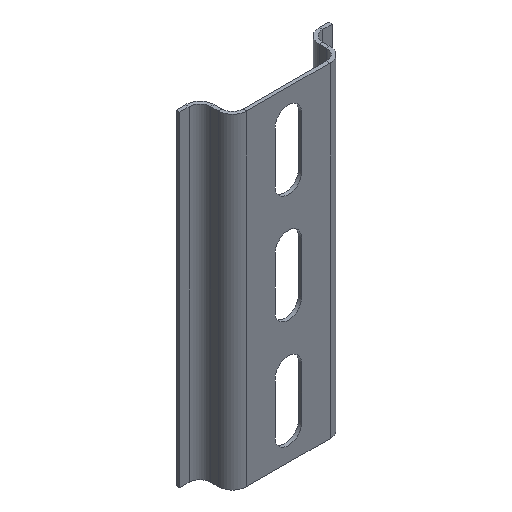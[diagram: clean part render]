
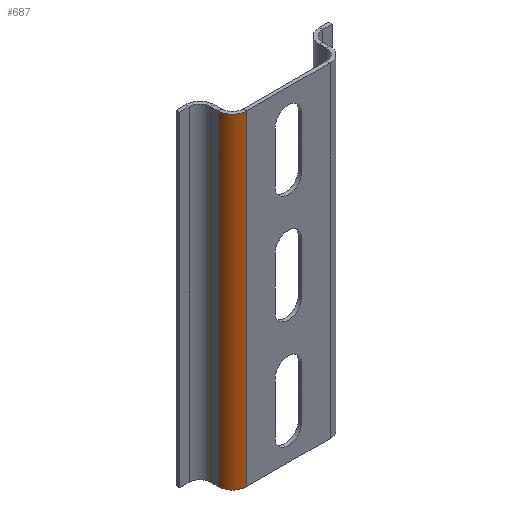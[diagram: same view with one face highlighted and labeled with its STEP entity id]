
A CAD part, isometric view. The second image highlights one B-rep face of the part: STEP entity #687.
In plain terms, the highlighted cylindrical face has radius 3.3 mm (diameter 6.6 mm), a partial arc.
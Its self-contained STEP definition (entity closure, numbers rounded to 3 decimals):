
#8 = VERTEX_POINT ( 'NONE', #617 ) ;
#16 = VERTEX_POINT ( 'NONE', #1416 ) ;
#45 = DIRECTION ( 'NONE',  ( 0., 0., -1. ) ) ;
#51 = DIRECTION ( 'NONE',  ( 0., 0., -1. ) ) ;
#68 = CARTESIAN_POINT ( 'NONE',  ( -9.6, -0.8, 75. ) ) ;
#100 = CYLINDRICAL_SURFACE ( 'NONE', #208, 3.3 ) ;
#132 = ORIENTED_EDGE ( 'NONE', *, *, #554, .F. ) ;
#157 = DIRECTION ( 'NONE',  ( 0., 0., -1. ) ) ;
#160 = AXIS2_PLACEMENT_3D ( 'NONE', #397, #157, #515 ) ;
#162 = EDGE_LOOP ( 'NONE', ( #132, #495, #1239, #1368 ) ) ;
#208 = AXIS2_PLACEMENT_3D ( 'NONE', #1315, #45, #1419 ) ;
#246 = DIRECTION ( 'NONE',  ( 1., 0., 0. ) ) ;
#397 = CARTESIAN_POINT ( 'NONE',  ( -9.6, 2.5, 0. ) ) ;
#445 = EDGE_CURVE ( 'NONE', #716, #836, #506, .T. ) ;
#492 = LINE ( 'NONE', #1444, #1363 ) ;
#495 = ORIENTED_EDGE ( 'NONE', *, *, #1268, .F. ) ;
#506 = CIRCLE ( 'NONE', #698, 3.3 ) ;
#515 = DIRECTION ( 'NONE',  ( 1., 0., 0. ) ) ;
#554 = EDGE_CURVE ( 'NONE', #8, #16, #893, .T. ) ;
#607 = FACE_OUTER_BOUND ( 'NONE', #162, .T. ) ;
#617 = CARTESIAN_POINT ( 'NONE',  ( -9.6, -0.8, 0. ) ) ;
#675 = DIRECTION ( 'NONE',  ( 0., 0., -1. ) ) ;
#687 = ADVANCED_FACE ( 'NONE', ( #607 ), #100, .T. ) ;
#698 = AXIS2_PLACEMENT_3D ( 'NONE', #1509, #941, #246 ) ;
#712 = VECTOR ( 'NONE', #675, 1000. ) ;
#716 = VERTEX_POINT ( 'NONE', #68 ) ;
#836 = VERTEX_POINT ( 'NONE', #1448 ) ;
#893 = CIRCLE ( 'NONE', #160, 3.3 ) ;
#941 = DIRECTION ( 'NONE',  ( 0., 0., -1. ) ) ;
#968 = LINE ( 'NONE', #1232, #712 ) ;
#1232 = CARTESIAN_POINT ( 'NONE',  ( -12.9, 2.5, 75. ) ) ;
#1239 = ORIENTED_EDGE ( 'NONE', *, *, #445, .T. ) ;
#1268 = EDGE_CURVE ( 'NONE', #716, #8, #492, .T. ) ;
#1315 = CARTESIAN_POINT ( 'NONE',  ( -9.6, 2.5, 75. ) ) ;
#1363 = VECTOR ( 'NONE', #51, 1000. ) ;
#1368 = ORIENTED_EDGE ( 'NONE', *, *, #1437, .T. ) ;
#1416 = CARTESIAN_POINT ( 'NONE',  ( -12.9, 2.5, 0. ) ) ;
#1419 = DIRECTION ( 'NONE',  ( -1., 0., 0. ) ) ;
#1437 = EDGE_CURVE ( 'NONE', #836, #16, #968, .T. ) ;
#1444 = CARTESIAN_POINT ( 'NONE',  ( -9.6, -0.8, 75. ) ) ;
#1448 = CARTESIAN_POINT ( 'NONE',  ( -12.9, 2.5, 75. ) ) ;
#1509 = CARTESIAN_POINT ( 'NONE',  ( -9.6, 2.5, 75. ) ) ;
